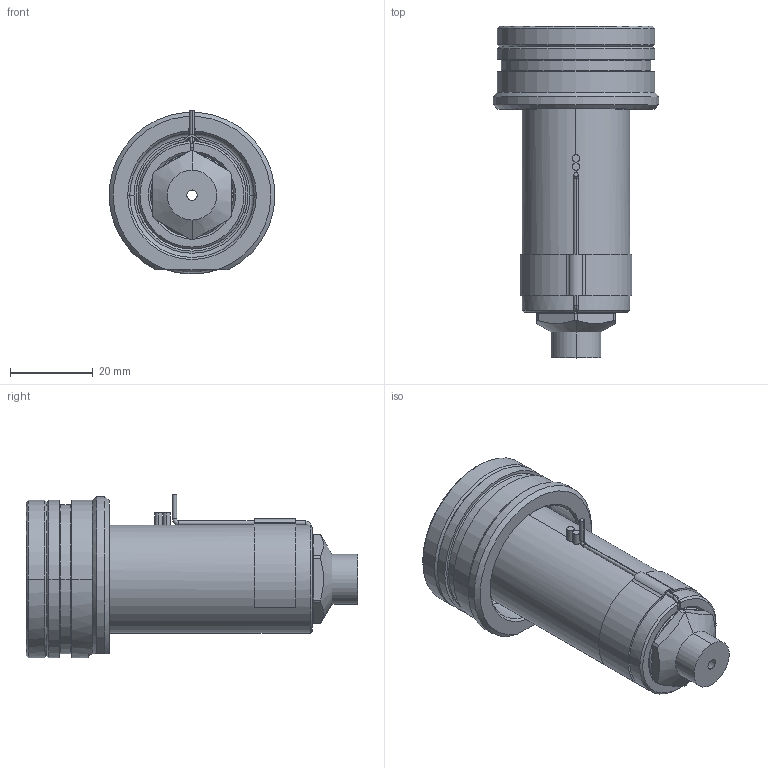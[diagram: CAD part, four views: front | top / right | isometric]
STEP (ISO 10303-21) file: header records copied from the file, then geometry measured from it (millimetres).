
FILE_DESCRIPTION((''),'2;1');
FILE_NAME('EO08_VG-FB_WR_060_SW','2024-02-19T13:30:16',('sundharh'),(''),'CREO PARAMETRIC BY PTC INC, 2023154','CREO PARAMETRIC BY PTC INC, 2023154','');
FILE_SCHEMA(('CONFIG_CONTROL_DESIGN'));
Length unit declared in the file: millimetre
Products named in the file (1): EO08_VG-FB_WR_060_SW
Bounding box: 39.88 x 80 x 39.52 mm (x, y, z)
Volume: 44680.6 mm3; surface area: 14927.2 mm2
Topology: 1 solids, 1 shells, 202 faces, 494 edges, 299 vertices
Faces by surface type: cylinder 72, plane 46, cone 41, torus 29, bspline 12, sphere 2
Entity records: 7272 total; most frequent: CARTESIAN_POINT 2414, DIRECTION 1089, ORIENTED_EDGE 980, EDGE_CURVE 490, AXIS2_PLACEMENT_3D 458, VERTEX_POINT 299, CIRCLE 268, EDGE_LOOP 219
